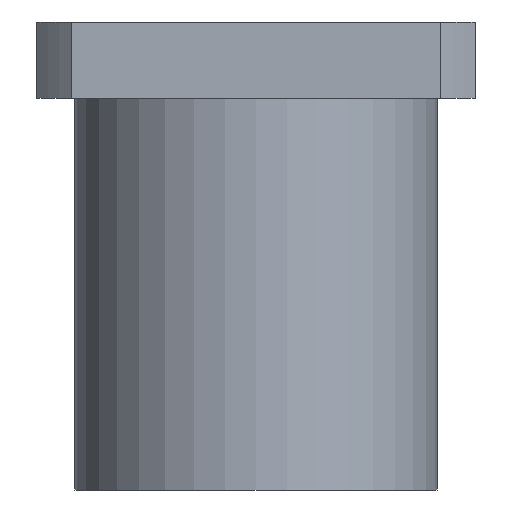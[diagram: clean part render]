
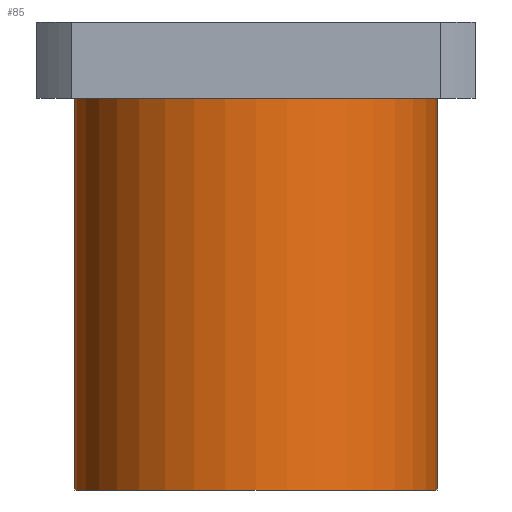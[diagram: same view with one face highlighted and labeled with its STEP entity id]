
A CAD part, front view. The second image highlights one B-rep face of the part: STEP entity #85.
In plain terms, the highlighted cylindrical face has radius 31 mm (diameter 62 mm), a partial arc.
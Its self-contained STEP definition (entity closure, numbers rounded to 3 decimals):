
#44=CARTESIAN_POINT('',(0.0,0.0,0.0));
#45=DIRECTION('',(0.0,0.0,1.0));
#46=DIRECTION('',(-1.0,0.0,0.0));
#47=AXIS2_PLACEMENT_3D('',#44,#45,#46);
#48=CYLINDRICAL_SURFACE('',#47,31.);
#49=CARTESIAN_POINT('',(-31.,0.,0.0));
#50=VERTEX_POINT('',#49);
#51=CARTESIAN_POINT('',(-31.,0.,67.0));
#52=VERTEX_POINT('',#51);
#53=CARTESIAN_POINT('',(-31.,0.,0.0));
#54=DIRECTION('',(0.0,0.0,1.0));
#55=VECTOR('',#54,67.0);
#56=LINE('',#53,#55);
#57=EDGE_CURVE('',#50,#52,#56,.T.);
#58=ORIENTED_EDGE('',*,*,#57,.F.);
#59=CARTESIAN_POINT('',(31.,0.,0.0));
#60=VERTEX_POINT('',#59);
#61=CARTESIAN_POINT('',(0.0,0.0,0.0));
#62=DIRECTION('',(0.0,0.0,-1.0));
#63=DIRECTION('',(-1.0,0.0,0.0));
#64=AXIS2_PLACEMENT_3D('',#61,#62,#63);
#65=CIRCLE('',#64,31.);
#66=EDGE_CURVE('',#60,#50,#65,.T.);
#67=ORIENTED_EDGE('',*,*,#66,.F.);
#68=CARTESIAN_POINT('',(31.,0.,67.0));
#69=VERTEX_POINT('',#68);
#70=CARTESIAN_POINT('',(31.,0.,67.0));
#71=DIRECTION('',(0.0,0.0,-1.0));
#72=VECTOR('',#71,67.0);
#73=LINE('',#70,#72);
#74=EDGE_CURVE('',#69,#60,#73,.T.);
#75=ORIENTED_EDGE('',*,*,#74,.F.);
#76=CARTESIAN_POINT('',(0.0,0.0,67.0));
#77=DIRECTION('',(0.0,0.0,-1.0));
#78=DIRECTION('',(-1.0,0.0,0.0));
#79=AXIS2_PLACEMENT_3D('',#76,#77,#78);
#80=CIRCLE('',#79,31.);
#81=EDGE_CURVE('',#69,#52,#80,.T.);
#82=ORIENTED_EDGE('',*,*,#81,.T.);
#83=EDGE_LOOP('',(#58,#67,#75,#82));
#84=FACE_OUTER_BOUND('',#83,.T.);
#85=ADVANCED_FACE('',(#84),#48,.T.);
